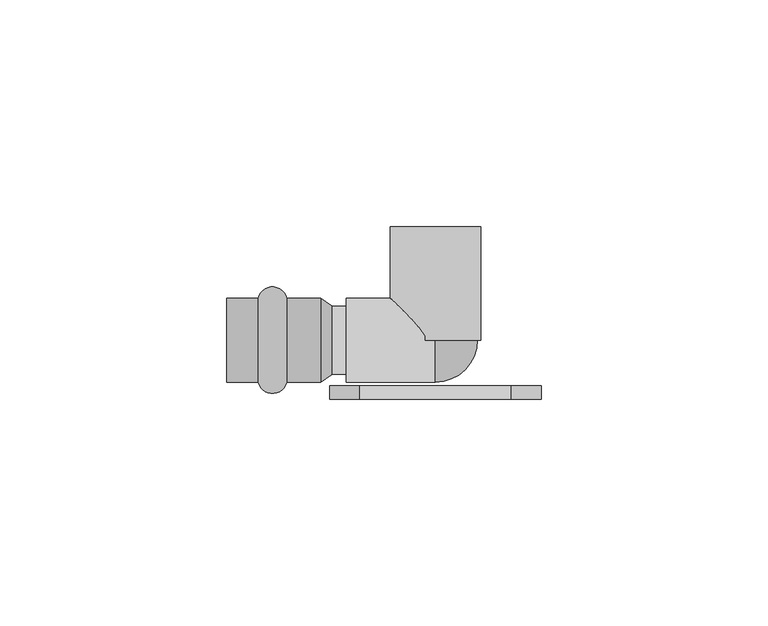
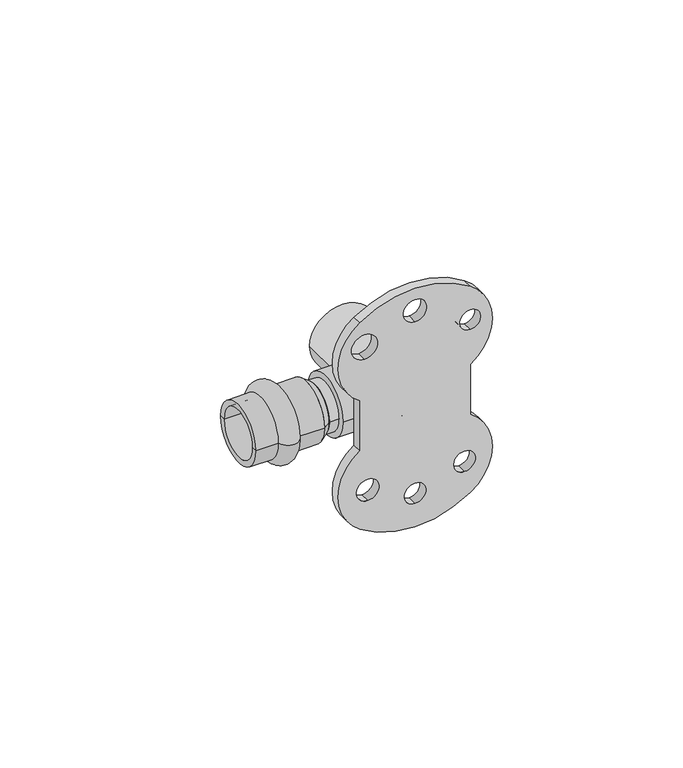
"""IFC4 building model written with IfcOpenShell, lengths in millimetres: pipe fitting geometry, VALTEC_VTi.954.I_Водорозетка : VTi.954.I."""

from ifc_helpers import new_model, si_unit, point, frame, frame_2d, origin, origin_2d, place, context, project, spatial, polyline, circle_curve, ellipse_curve, trimmed, segment, composite_curve, outline, extrude, source, transform, mapped, element, save
from ifc_brep_helpers import plane_surface, cylinder_surface, revolved_surface, advanced_brep


def pipe_fitting_6eb66a9c(model_context):
    return source(origin(), model_context, "Body", "SolidModel", [
        advanced_brep(
        [(-39.1122777, -9.25, 0.0), (-39.1122777, 9.25, 0.0), (-32.7877223, 9.25, 0.0), (-32.7877223, -9.25, 0.0), (-46.0, -9.25, 0.0), (-46.0, 9.25, 0.0), (-46.0, -7.5, 0.0), (-46.0, 7.5, 0.0), (-25.3, -7.5, 0.0), (-25.3, 7.5, 0.0), (-25.3, -9.25, 0.0), (-25.3, 9.25, 0.0)],
        [
            (0, 1, circle_curve(frame((-39.1122777, 0.0, 0.0), z_axis=(1.0, 0.0, 0.0), x_axis=(0.0, 1.0, 0.0)), 9.25)),
            (1, 2, circle_curve(frame((-35.95, 8.5, 0.0), z_axis=(0.0, 0.0, -1.0), x_axis=(1.0, 0.0, 0.0)), 3.25)),
            (2, 3, circle_curve(frame((-32.7877223, 0.0, 0.0), z_axis=(-1.0, 0.0, 0.0), x_axis=(0.0, 1.0, 0.0)), 9.25)),
            (3, 0, circle_curve(frame((-35.95, -8.5, 0.0), z_axis=(0.0, 0.0, -1.0), x_axis=(1.0, 0.0, 0.0)), 3.25)),
            (1, 0, circle_curve(frame((-39.1122777, 0.0, 0.0), z_axis=(1.0, 0.0, 0.0), x_axis=(0.0, 1.0, 0.0)), 9.25)),
            (3, 2, circle_curve(frame((-32.7877223, 0.0, 0.0), z_axis=(-1.0, 0.0, 0.0), x_axis=(0.0, 1.0, 0.0)), 9.25)),
            (4, 5, circle_curve(frame((-46.0, 0.0, 0.0), z_axis=(1.0, 0.0, 0.0), x_axis=(0.0, 1.0, 0.0)), 9.25)),
            (5, 1),
            (0, 4),
            (5, 4, circle_curve(frame((-46.0, 0.0, 0.0), z_axis=(1.0, 0.0, 0.0), x_axis=(0.0, 1.0, 0.0)), 9.25)),
            (6, 7, circle_curve(frame((-46.0, 0.0, 0.0), z_axis=(1.0, 0.0, 0.0), x_axis=(0.0, 1.0, 0.0)), 7.5)),
            (7, 5),
            (4, 6),
            (7, 6, circle_curve(frame((-46.0, 0.0, 0.0), z_axis=(1.0, 0.0, 0.0), x_axis=(0.0, 1.0, 0.0)), 7.5)),
            (8, 9, circle_curve(frame((-25.3, 0.0, 0.0), z_axis=(1.0, 0.0, 0.0), x_axis=(0.0, 1.0, 0.0)), 7.5)),
            (9, 7),
            (6, 8),
            (9, 8, circle_curve(frame((-25.3, 0.0, 0.0), z_axis=(1.0, 0.0, 0.0), x_axis=(0.0, 1.0, 0.0)), 7.5)),
            (10, 11, circle_curve(frame((-25.3, 0.0, 0.0), z_axis=(1.0, 0.0, 0.0), x_axis=(0.0, 1.0, 0.0)), 9.25)),
            (11, 9),
            (8, 10),
            (11, 10, circle_curve(frame((-25.3, 0.0, 0.0), z_axis=(1.0, 0.0, 0.0), x_axis=(0.0, 1.0, 0.0)), 9.25)),
            (2, 11),
            (10, 3),
        ],
        [
            revolved_surface(trimmed(ellipse_curve(frame((-35.95, 8.5, 0.0), z_axis=(0.0, 0.0, 1.0), x_axis=(1.0, 0.0, 0.0)), 3.25, 3.25), [point((-32.7877223, 9.25, 0.0))], [point((-39.1122777, 9.25, 0.0))], True, "CARTESIAN"), (-49.5364426, 0.0, 0.0), (-1.0, 0.0, 0.0)),
            cylinder_surface(frame((-49.5364426, 0.0, 0.0), z_axis=(-1.0, 0.0, 0.0), x_axis=(0.0, 1.0, 0.0)), 9.25),
            plane_surface(frame((-46.0, 0.0, 0.0), z_axis=(-1.0, 0.0, 0.0), x_axis=(0.0, 1.0, 0.0))),
            revolved_surface(polyline([(-46.0, 7.5, 0.0), (-25.3, 7.5, 0.0)]), (-49.5364426, 0.0, 0.0), (-1.0, 0.0, 0.0)),
            plane_surface(frame((-25.3, 0.0, 0.0), z_axis=(1.0, 0.0, 0.0), x_axis=(0.0, 1.0, 0.0))),
        ],
        [
            (0, [[1, 2, 3, 4]]),
            (0, [[5, -4, 6, -2]]),
            (1, [[7, 8, -1, 9]]),
            (1, [[10, -9, -5, -8]]),
            (2, [[11, 12, -7, 13]]),
            (2, [[14, -13, -10, -12]]),
            (3, [[15, 16, -11, 17]]),
            (3, [[18, -17, -14, -16]]),
            (4, [[19, 20, -15, 21]]),
            (4, [[22, -21, -18, -20]]),
            (1, [[-3, 23, -19, 24]]),
            (1, [[-6, -24, -22, -23]]),
        ],
    ),
        extrude(outline(composite_curve([segment(polyline([(-7.9880122, 16.7174213), (7.9880122, 16.7174213)]), True, "CONTINUOUS"), segment(trimmed(circle_curve(frame_2d((20.4880122, 8.2246929)), 15.1121288), [point((7.9880122, 16.7174213))], [point((32.9880122, 16.7174213))], False, "CARTESIAN"), True, "CONTINUOUS"), segment(trimmed(circle_curve(frame_2d((8.3825197, 0.0)), 29.7473098), [point((32.9880122, 16.7174213))], [point((32.9880122, -16.7174213))], False, "CARTESIAN"), True, "CONTINUOUS"), segment(trimmed(circle_curve(frame_2d((20.4880122, -8.2246929)), 15.1121288), [point((32.9880122, -16.7174213))], [point((7.9880122, -16.7174213))], False, "CARTESIAN"), True, "CONTINUOUS"), segment(polyline([(7.9880122, -16.7174213), (-7.9880122, -16.7174213)]), True, "CONTINUOUS"), segment(trimmed(circle_curve(frame_2d((-20.4880122, -8.2246929)), 15.1121288), [point((-7.9880122, -16.7174213))], [point((-32.9880122, -16.7174213))], False, "CARTESIAN"), True, "CONTINUOUS"), segment(trimmed(circle_curve(frame_2d((-8.3825197, 0.0)), 29.7473098), [point((-32.9880122, -16.7174213))], [point((-32.9880122, 16.7174213))], False, "CARTESIAN"), True, "CONTINUOUS"), segment(trimmed(circle_curve(frame_2d((-20.4880122, 8.2246929)), 15.1121288), [point((-32.9880122, 16.7174213))], [point((-7.9880122, 16.7174213))], False, "CARTESIAN"), True, "CONTINUOUS")], self_intersect=False), holes=[composite_curve([segment(trimmed(circle_curve(frame_2d((-22.4078456, 14.9572115)), 3.2586084), [point((-19.1492372, 14.9572115))], [point((-25.6664541, 14.9572115))], True, "CARTESIAN"), True, "CONTINUOUS"), segment(trimmed(circle_curve(frame_2d((-22.4078456, 14.9572115)), 3.2586084), [point((-25.6664541, 14.9572115))], [point((-19.1492372, 14.9572115))], True, "CARTESIAN"), True, "CONTINUOUS")], self_intersect=False), composite_curve([segment(trimmed(circle_curve(frame_2d((-27.3898654, 0.0)), 3.2507226), [point((-24.1391428, 0.0))], [point((-30.640588, 0.0))], True, "CARTESIAN"), True, "CONTINUOUS"), segment(trimmed(circle_curve(frame_2d((-27.3898654, 0.0)), 3.2507226), [point((-30.640588, 0.0))], [point((-24.1391428, 0.0))], True, "CARTESIAN"), True, "CONTINUOUS")], self_intersect=False), composite_curve([segment(trimmed(circle_curve(frame_2d((-21.2868912, -14.3121545)), 3.401561), [point((-17.8853302, -14.3121545))], [point((-24.6884522, -14.3121545))], True, "CARTESIAN"), True, "CONTINUOUS"), segment(trimmed(circle_curve(frame_2d((-21.2868912, -14.3121545)), 3.401561), [point((-24.6884522, -14.3121545))], [point((-17.8853302, -14.3121545))], True, "CARTESIAN"), True, "CONTINUOUS")], self_intersect=False), composite_curve([segment(trimmed(circle_curve(frame_2d((22.3057816, 16.7174213)), 3.1302653), [point((25.4360468, 16.7174213))], [point((19.1755163, 16.7174213))], True, "CARTESIAN"), True, "CONTINUOUS"), segment(trimmed(circle_curve(frame_2d((22.3057816, 16.7174213)), 3.1302653), [point((19.1755163, 16.7174213))], [point((25.4360468, 16.7174213))], True, "CARTESIAN"), True, "CONTINUOUS")], self_intersect=False), composite_curve([segment(trimmed(circle_curve(frame_2d((31.0243161, 0.0)), 3.5243161), [point((34.5486322, 0.0))], [point((27.5, 0.0))], True, "CARTESIAN"), True, "CONTINUOUS"), segment(trimmed(circle_curve(frame_2d((31.0243161, 0.0)), 3.5243161), [point((27.5, 0.0))], [point((34.5486322, 0.0))], True, "CARTESIAN"), True, "CONTINUOUS")], self_intersect=False), composite_curve([segment(trimmed(circle_curve(frame_2d((24.75, -15.3085584)), 3.9300859), [point((28.6800859, -15.3085584))], [point((20.8199141, -15.3085584))], True, "CARTESIAN"), True, "CONTINUOUS"), segment(trimmed(circle_curve(frame_2d((24.75, -15.3085584)), 3.9300859), [point((20.8199141, -15.3085584))], [point((28.6800859, -15.3085584))], True, "CARTESIAN"), True, "CONTINUOUS")], self_intersect=False)]), frame((0.0, -13.0, 0.0), z_axis=(0.0, 1.0, 0.0), x_axis=(0.0, 0.0, 1.0)), (0.0, 0.0, 1.0), 3.0),
        advanced_brep(
        [(0.0, 0.0, -9.25), (0.0, 0.0, 9.25)],
        [
            (0, 1, circle_curve(frame((0.0, 0.0, 0.0), z_axis=(-1.0, 0.0, 0.0), x_axis=(0.0, -1.0, 0.0)), 9.25)),
            (1, 0),
            (1, 0, circle_curve(frame((0.0, 0.0, 0.0), z_axis=(0.0, 1.0, 0.0), x_axis=(1.0, 0.0, 0.0)), 9.25)),
        ],
        [
            plane_surface(frame((0.0, 0.0, 1.732782), z_axis=(-1.0, 0.0, 0.0), x_axis=(0.0, -1.0, 0.0))),
            plane_surface(frame((0.0, 0.0, 1.732782), z_axis=(0.0, 1.0, 0.0), x_axis=(1.0, 0.0, 0.0))),
            revolved_surface(trimmed(ellipse_curve(frame((0.0, 0.0, 0.0), z_axis=(-1.0, 0.0, 0.0), x_axis=(0.0, -1.0, 0.0)), 9.25, 9.25), [point((0.0, 0.0, -9.25))], [point((0.0, 0.0, 9.25))], True, "CARTESIAN"), (0.0, 0.0, 1.732782), (0.0, 0.0, 1.0)),
        ],
        [
            (0, [[1, 2]]),
            (1, [[3, -2]]),
            (2, [[-1, -3]]),
        ],
    ),
        extrude(outline(composite_curve([segment(trimmed(circle_curve(origin_2d(), 9.25), [point((-9.25, 0.0))], [point((9.25, 0.0))], False, "CARTESIAN"), True, "CONTINUOUS"), segment(trimmed(circle_curve(origin_2d(), 9.25), [point((9.25, 0.0))], [point((-9.25, 0.0))], False, "CARTESIAN"), True, "CONTINUOUS")], self_intersect=False)), frame((-19.6390217, 0.0, 0.0), z_axis=(1.0, 0.0, 0.0), x_axis=(0.0, 1.0, 0.0)), (0.0, 0.0, 1.0), 19.6390217),
        extrude(outline(composite_curve([segment(trimmed(circle_curve(origin_2d(), 10.0), [point((0.0, -10.0))], [point((0.0, 10.0))], False, "CARTESIAN"), True, "CONTINUOUS"), segment(trimmed(circle_curve(origin_2d(), 10.0), [point((0.0, 10.0))], [point((0.0, -10.0))], False, "CARTESIAN"), True, "CONTINUOUS")], self_intersect=False), holes=[composite_curve([segment(trimmed(circle_curve(origin_2d(), 7.5), [point((0.0, -7.5))], [point((0.0, 7.5))], True, "CARTESIAN"), True, "CONTINUOUS"), segment(trimmed(circle_curve(origin_2d(), 7.5), [point((0.0, 7.5))], [point((0.0, -7.5))], True, "CARTESIAN"), True, "CONTINUOUS")], self_intersect=False)]), frame((0.0, 0.0, 0.0), z_axis=(0.0, 1.0, 0.0), x_axis=(0.0, 0.0, 1.0)), (0.0, 0.0, 1.0), 25.0),
        extrude(outline(composite_curve([segment(trimmed(circle_curve(origin_2d(), 7.5), [point((-7.5, 0.0))], [point((7.5, 0.0))], False, "CARTESIAN"), True, "CONTINUOUS"), segment(trimmed(circle_curve(origin_2d(), 7.5), [point((7.5, 0.0))], [point((-7.5, 0.0))], False, "CARTESIAN"), True, "CONTINUOUS")], self_intersect=False)), frame((-22.77, 0.0, 0.0), z_axis=(1.0, 0.0, 0.0), x_axis=(0.0, 1.0, 0.0)), (0.0, 0.0, 1.0), 3.1309783),
        advanced_brep(
        [(-25.3, -9.25, 0.0), (-25.3, 9.25, 0.0), (-22.77, -7.5, 0.0), (-22.77, 7.5, 0.0)],
        [
            (0, 1, circle_curve(frame((-25.3, 0.0, 0.0), z_axis=(-1.0, 0.0, 0.0), x_axis=(0.0, -1.0, 0.0)), 9.25)),
            (1, 0, circle_curve(frame((-25.3, 0.0, 0.0), z_axis=(-1.0, 0.0, 0.0), x_axis=(0.0, 1.0, 0.0)), 9.25)),
            (2, 3, circle_curve(frame((-22.77, 0.0, 0.0), z_axis=(1.0, 0.0, 0.0), x_axis=(0.0, 1.0, 0.0)), 7.5)),
            (3, 2, circle_curve(frame((-22.77, 0.0, 0.0), z_axis=(1.0, 0.0, 0.0), x_axis=(0.0, -1.0, 0.0)), 7.5)),
            (2, 0),
            (1, 3),
        ],
        [
            plane_surface(frame((-25.3, 0.0, 0.0), z_axis=(-1.0, 0.0, 0.0), x_axis=(0.0, 0.0, -1.0))),
            plane_surface(frame((-22.77, 0.0, 0.0), z_axis=(1.0, 0.0, 0.0), x_axis=(0.0, 0.0, -1.0))),
            revolved_surface(polyline([(-22.77, -7.499999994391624, 0.0), (-25.3, -9.25, 0.0)]), (-11.9271429, 0.0, 0.0), (-1.0, 0.0, 0.0)),
            revolved_surface(polyline([(-22.77, 7.499999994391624, 0.0), (-25.3, 9.25, 0.0)]), (-11.9271429, 0.0, 0.0), (-1.0, 0.0, 0.0)),
        ],
        [
            (0, [[1, 2]]),
            (1, [[3, 4]]),
            (2, [[-3, 5, -2, 6]]),
            (3, [[-4, -6, -1, -5]]),
        ],
    ),
    ])


if __name__ == "__main__":
    model = new_model("IFC4")
    model_context = context("Model", 3, world=origin())
    ifc_project = project(units=[si_unit("LENGTHUNIT", "METRE", prefix="MILLI")], contexts=[model_context])
    site = spatial("IfcSite", under=ifc_project)
    building = spatial("IfcBuilding", under=site)
    placement = place(None, origin())
    pipe_fitting_shape = pipe_fitting_6eb66a9c(model_context)
    element("IfcPipeFitting", 1, ObjectType="VALTEC_VTi.954.I_Водорозетка : VTi.954.I", at=placement, inside=building, context=model_context, shape_type="MappedRepresentation", body=[
        mapped(pipe_fitting_shape, transform((0.0, 0.0, 0.0), x_axis=(1.0, 0.0, 0.0), y_axis=(0.0, 1.0, 0.0), z_axis=(0.0, 0.0, 1.0))),
    ])
    save(model, "model.ifc")
